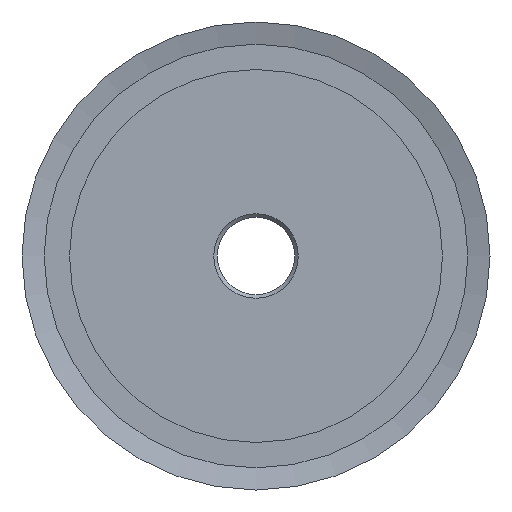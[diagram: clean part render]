
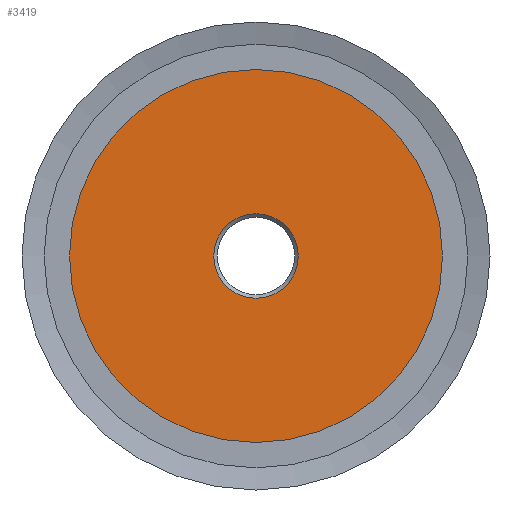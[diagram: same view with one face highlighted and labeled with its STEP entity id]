
A CAD part, left-side view. The second image highlights one B-rep face of the part: STEP entity #3419.
In plain terms, the highlighted planar face has unit normal (-1, 0, 0).
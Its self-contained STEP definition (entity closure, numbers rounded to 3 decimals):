
#38=FACE_BOUND('',#455,.T.);
#105=PLANE('',#3868);
#274=FACE_OUTER_BOUND('',#454,.T.);
#454=EDGE_LOOP('',(#2937));
#455=EDGE_LOOP('',(#2938));
#1261=CIRCLE('',#3867,6.);
#1262=CIRCLE('',#3869,26.5);
#1601=VERTEX_POINT('',#5977);
#1602=VERTEX_POINT('',#5981);
#2102=EDGE_CURVE('',#1601,#1601,#1261,.T.);
#2103=EDGE_CURVE('',#1602,#1602,#1262,.T.);
#2937=ORIENTED_EDGE('',*,*,#2103,.F.);
#2938=ORIENTED_EDGE('',*,*,#2102,.T.);
#3419=ADVANCED_FACE('',(#274,#38),#105,.T.);
#3867=AXIS2_PLACEMENT_3D('',#5979,#4922,#4923);
#3868=AXIS2_PLACEMENT_3D('',#5980,#4924,#4925);
#3869=AXIS2_PLACEMENT_3D('',#5982,#4926,#4927);
#4922=DIRECTION('center_axis',(1.,0.,0.));
#4923=DIRECTION('ref_axis',(0.,0.,-1.));
#4924=DIRECTION('center_axis',(-1.,0.,0.));
#4925=DIRECTION('ref_axis',(0.,0.,1.));
#4926=DIRECTION('center_axis',(1.,0.,0.));
#4927=DIRECTION('ref_axis',(0.,0.,-1.));
#5977=CARTESIAN_POINT('',(0.,-6.,0.));
#5979=CARTESIAN_POINT('Origin',(0.,0.,0.));
#5980=CARTESIAN_POINT('Origin',(0.,26.5,0.));
#5981=CARTESIAN_POINT('',(0.,-26.5,0.));
#5982=CARTESIAN_POINT('Origin',(0.,0.,0.));
